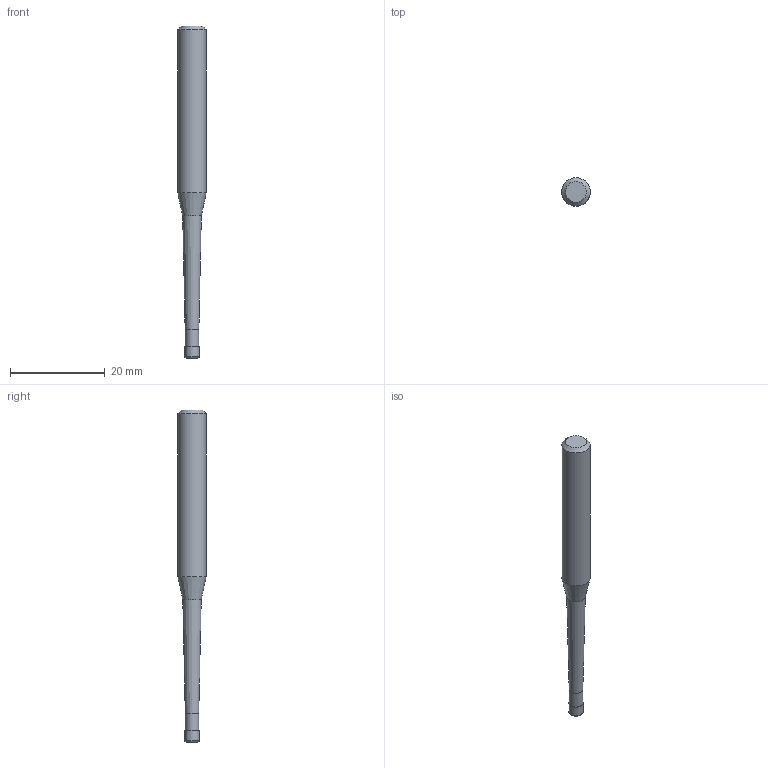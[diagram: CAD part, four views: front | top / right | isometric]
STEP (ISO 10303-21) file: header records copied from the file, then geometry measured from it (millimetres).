
FILE_DESCRIPTION((''),'2;1');
FILE_NAME('C:\Users\nsx150\AppData\Local\Temp\Mastercam 2021\YKS1SUSFZB\TEMP.step','2025-06-23T14:04:58',(''),(''),'STEP Write','Mastercam 2021 ... CNC Software, Inc.','');
FILE_SCHEMA(('AUTOMOTIVE_DESIGN'));
Length unit declared in the file: millimetre
Products named in the file (1): None
Bounding box: 6 x 6 x 70 mm (x, y, z)
Volume: 1344.4 mm3; surface area: 1090.1 mm2
Topology: 2 solids, 2 shells, 11 faces, 16 edges, 9 vertices
Faces by surface type: plane 4, cylinder 3, cone 3, torus 1
Full cylindrical faces by diameter (mm): 2.885 x1, 3 x1, 6 x1
Entity records: 253 total; most frequent: DIRECTION 44, CARTESIAN_POINT 31, AXIS2_PLACEMENT_3D 22, ORIENTED_EDGE 18, EDGE_LOOP 18, STYLED_ITEM 14, ADVANCED_FACE 11, FACE_BOUND 11
